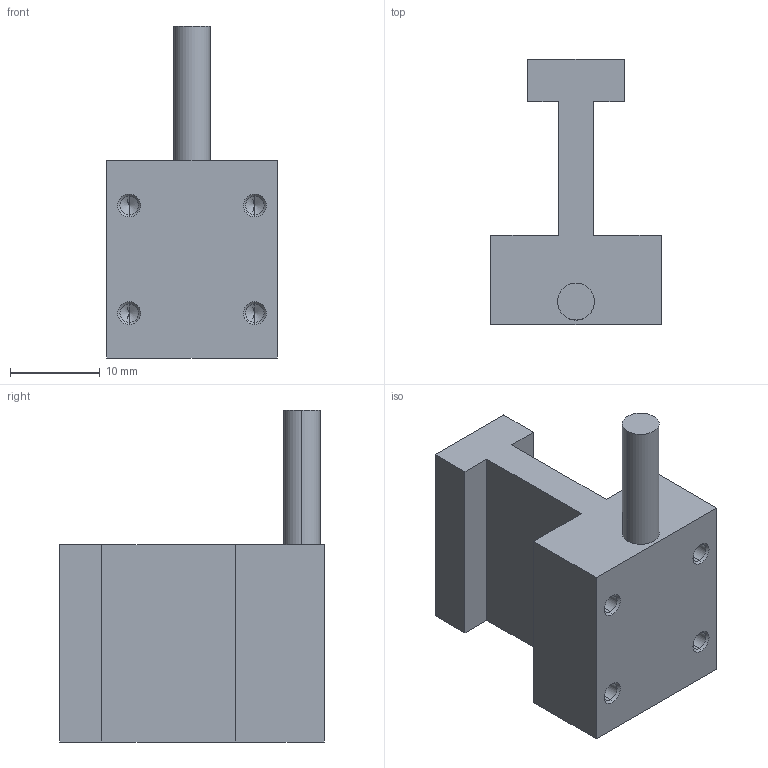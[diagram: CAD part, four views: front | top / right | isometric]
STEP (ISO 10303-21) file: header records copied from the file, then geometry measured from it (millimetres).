
FILE_DESCRIPTION (( 'STEP AP214' ), '1' );
FILE_NAME ('JKA11.STEP', '2025-09-05T12:35:05', ( '' ), ( '' ), 'SwSTEP 2.0', 'SolidWorks 2016', '' );
FILE_SCHEMA (( 'AUTOMOTIVE_DESIGN' ));
Length unit declared in the file: millimetre
Products named in the file (1): JKA11
Bounding box: 19 x 29.5 x 37 mm (x, y, z)
Volume: 6661.8 mm3; surface area: 3352.3 mm2
Topology: 1 solids, 1 shells, 41 faces, 98 edges, 56 vertices
Faces by surface type: cone 16, plane 15, cylinder 10
Entity records: 1238 total; most frequent: DIRECTION 202, CARTESIAN_POINT 188, ORIENTED_EDGE 180, EDGE_CURVE 90, AXIS2_PLACEMENT_3D 70, VECTOR 62, LINE 62, VERTEX_POINT 56
